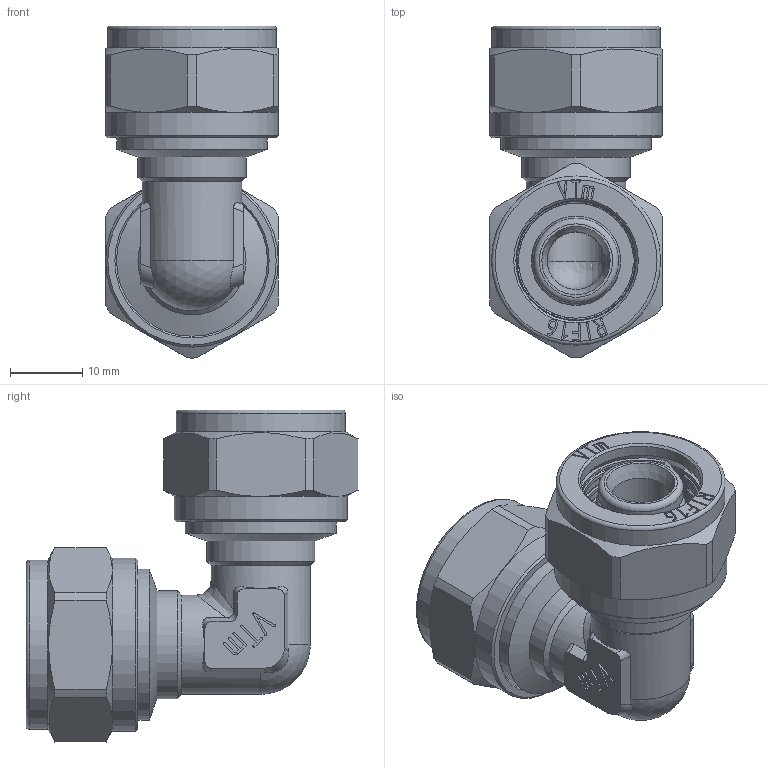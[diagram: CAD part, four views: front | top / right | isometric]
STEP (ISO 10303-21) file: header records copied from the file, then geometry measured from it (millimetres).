
FILE_DESCRIPTION(('STEP AP203'), '1');
FILE_NAME('VTm.351.N.001616', '', ('UNSPECIFIED'), ('UNSPECIFIED'), 'C3D Converter', 'C3D Toolkit', '');
FILE_SCHEMA(('CONFIG_CONTROL_DESIGN'));
Length unit declared in the file: millimetre
Products named in the file (1): ВР.302635.095.000 СБ
Bounding box: 24 x 46.1 x 46.1 mm (x, y, z)
Volume: 14133.3 mm3; surface area: 12535.1 mm2
Topology: 3 solids, 3 shells, 703 faces, 1913 edges, 1260 vertices
Faces by surface type: extrusion 300, plane 236, cylinder 72, torus 54, cone 38, sphere 2, bspline 1
Full cylindrical faces by diameter (mm): 8 x2, 11.8 x8, 12.4 x2, 13.8 x2, 15 x2, 16.2 x2, 16.7 x2, 18.632 x2, 20.955 x2, 23.5 x2, 24 x2
Entity records: 25094 total; most frequent: CARTESIAN_POINT 9023, ORIENTED_EDGE 3678, DIRECTION 2354, EDGE_CURVE 1839, VERTEX_POINT 1260, VECTOR 1138, B_SPLINE_CURVE_WITH_KNOTS 1036, LINE 838
